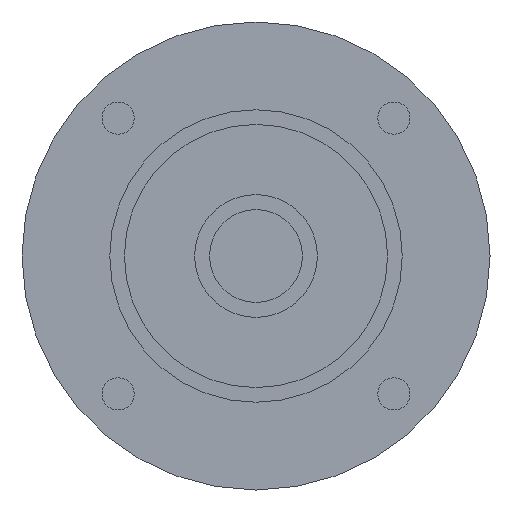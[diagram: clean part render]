
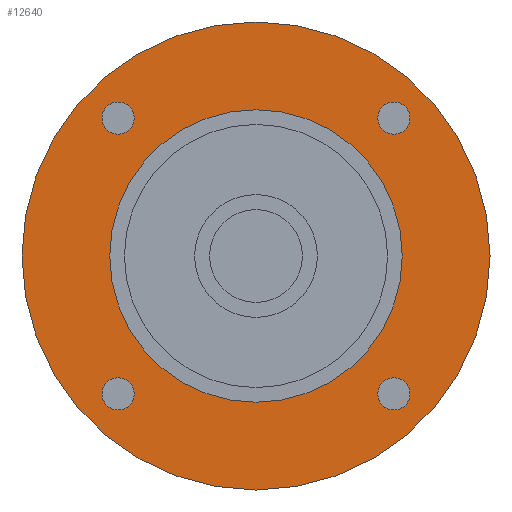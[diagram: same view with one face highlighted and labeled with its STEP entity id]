
A CAD part, left-side view. The second image highlights one B-rep face of the part: STEP entity #12640.
In plain terms, the highlighted planar face has unit normal (-1, 0, 0) as drawn and (0, 0, -1) by its records, which use the part's own axes.
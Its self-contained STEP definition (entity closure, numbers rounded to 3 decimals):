
#9150=CARTESIAN_POINT('',(23.571,-26.321,-42.2));
#9160=VERTEX_POINT('',#9150);
#9190=CARTESIAN_POINT('',(23.571,-23.571,-42.2));
#9200=DIRECTION('',(0.,0.,1.));
#9210=DIRECTION('',(0.,-1.,0.));
#9220=AXIS2_PLACEMENT_3D('',#9190,#9200,#9210);
#9230=CIRCLE('',#9220,2.75);
#9240=CARTESIAN_POINT('',(23.571,-20.821,-42.2));
#9250=VERTEX_POINT('',#9240);
#9260=EDGE_CURVE('',#9160,#9250,#9230,.T.);
#11660=CARTESIAN_POINT('',(-40.,0.,-42.2));
#11670=VERTEX_POINT('',#11660);
#11700=CARTESIAN_POINT('',(0.,0.,
-42.2));
#11710=DIRECTION('',(0.,0.,-1.));
#11720=DIRECTION('',(1.,0.,0.));
#11730=AXIS2_PLACEMENT_3D('',#11700,#11710,#11720);
#11740=CIRCLE('',#11730,40.);
#11750=CARTESIAN_POINT('',(40.,0.,-42.2));
#11760=VERTEX_POINT('',#11750);
#11770=EDGE_CURVE('',#11670,#11760,#11740,.T.);
#11890=CARTESIAN_POINT('',(0.,0.,
-42.2));
#11900=DIRECTION('',(0.,0.,1.));
#11910=DIRECTION('',(1.,0.,0.));
#11920=AXIS2_PLACEMENT_3D('',#11890,#11900,#11910);
#11930=PLANE('',#11920);
#11940=CARTESIAN_POINT('',(23.571,23.571,-42.2));
#11950=DIRECTION('',(0.,0.,1.));
#11960=DIRECTION('',(0.,-1.,0.));
#11970=AXIS2_PLACEMENT_3D('',#11940,#11950,#11960);
#11980=CIRCLE('',#11970,2.75);
#11990=CARTESIAN_POINT('',(23.571,20.821,-42.2));
#12000=VERTEX_POINT('',#11990);
#12010=CARTESIAN_POINT('',(23.571,26.321,-42.2));
#12020=VERTEX_POINT('',#12010);
#12030=EDGE_CURVE('',#12000,#12020,#11980,.T.);
#12040=ORIENTED_EDGE('',*,*,#12030,.T.);
#12050=EDGE_CURVE('',#12020,#12000,#11980,.T.);
#12060=ORIENTED_EDGE('',*,*,#12050,.T.);
#12070=EDGE_LOOP('',(#12060,#12040));
#12080=FACE_BOUND('',#12070,.T.);
#12090=CARTESIAN_POINT('',(-23.571,23.571,-42.2));
#12100=DIRECTION('',(0.,0.,1.));
#12110=DIRECTION('',(0.,-1.,0.));
#12120=AXIS2_PLACEMENT_3D('',#12090,#12100,#12110);
#12130=CIRCLE('',#12120,2.75);
#12140=CARTESIAN_POINT('',(-23.571,20.821,-42.2));
#12150=VERTEX_POINT('',#12140);
#12160=CARTESIAN_POINT('',(-23.571,26.321,-42.2));
#12170=VERTEX_POINT('',#12160);
#12180=EDGE_CURVE('',#12150,#12170,#12130,.T.);
#12190=ORIENTED_EDGE('',*,*,#12180,.T.);
#12200=EDGE_CURVE('',#12170,#12150,#12130,.T.);
#12210=ORIENTED_EDGE('',*,*,#12200,.T.);
#12220=EDGE_LOOP('',(#12210,#12190));
#12230=FACE_BOUND('',#12220,.T.);
#12240=CARTESIAN_POINT('',(-23.571,-23.571,-42.2));
#12250=DIRECTION('',(0.,0.,1.));
#12260=DIRECTION('',(0.,-1.,0.));
#12270=AXIS2_PLACEMENT_3D('',#12240,#12250,#12260);
#12280=CIRCLE('',#12270,2.75);
#12290=CARTESIAN_POINT('',(-23.571,-26.321,-42.2));
#12300=VERTEX_POINT('',#12290);
#12310=CARTESIAN_POINT('',(-23.571,-20.821,-42.2));
#12320=VERTEX_POINT('',#12310);
#12330=EDGE_CURVE('',#12300,#12320,#12280,.T.);
#12340=ORIENTED_EDGE('',*,*,#12330,.T.);
#12350=EDGE_CURVE('',#12320,#12300,#12280,.T.);
#12360=ORIENTED_EDGE('',*,*,#12350,.T.);
#12370=EDGE_LOOP('',(#12360,#12340));
#12380=FACE_BOUND('',#12370,.T.);
#12390=CARTESIAN_POINT('',(0.,0.,
-42.2));
#12400=DIRECTION('',(0.,0.,1.));
#12410=DIRECTION('',(1.,0.,0.));
#12420=AXIS2_PLACEMENT_3D('',#12390,#12400,#12410);
#12430=CIRCLE('',#12420,25.);
#12440=CARTESIAN_POINT('',(25.,0.,-42.2));
#12450=VERTEX_POINT('',#12440);
#12460=CARTESIAN_POINT('',(-25.,0.,-42.2));
#12470=VERTEX_POINT('',#12460);
#12480=EDGE_CURVE('',#12450,#12470,#12430,.T.);
#12490=ORIENTED_EDGE('',*,*,#12480,.T.);
#12500=EDGE_CURVE('',#12470,#12450,#12430,.T.);
#12510=ORIENTED_EDGE('',*,*,#12500,.T.);
#12520=EDGE_LOOP('',(#12510,#12490));
#12530=FACE_BOUND('',#12520,.T.);
#12540=ORIENTED_EDGE('',*,*,#9260,.T.);
#12550=EDGE_CURVE('',#9250,#9160,#9230,.T.);
#12560=ORIENTED_EDGE('',*,*,#12550,.T.);
#12570=EDGE_LOOP('',(#12560,#12540));
#12580=FACE_BOUND('',#12570,.T.);
#12590=EDGE_CURVE('',#11760,#11670,#11740,.T.);
#12600=ORIENTED_EDGE('',*,*,#12590,.T.);
#12610=ORIENTED_EDGE('',*,*,#11770,.T.);
#12620=EDGE_LOOP('',(#12610,#12600));
#12630=FACE_OUTER_BOUND('',#12620,.T.);
#12640=ADVANCED_FACE('',(#12080,#12230,#12380,#12530,#12580,#12630),
#11930,.F.);
